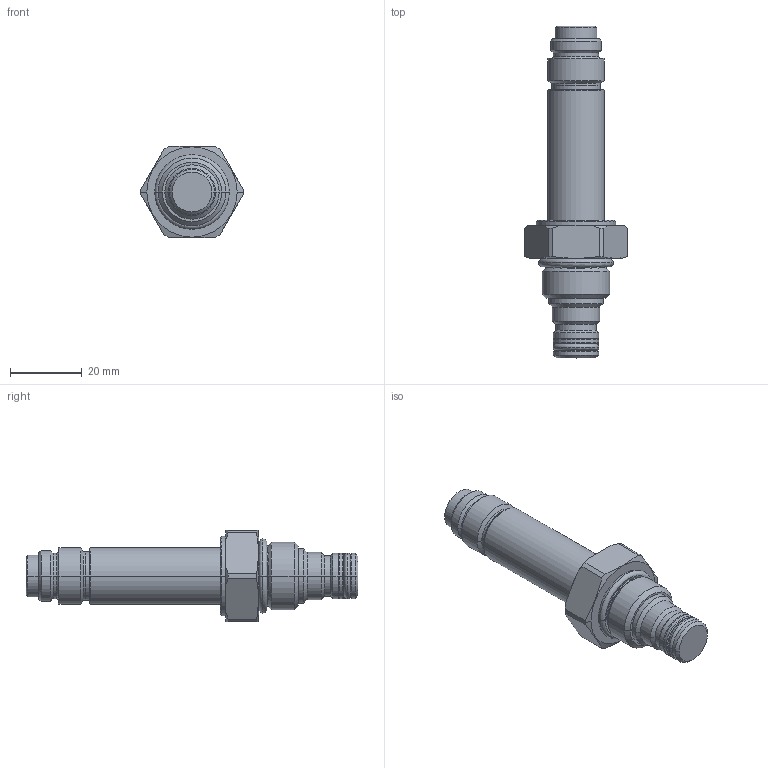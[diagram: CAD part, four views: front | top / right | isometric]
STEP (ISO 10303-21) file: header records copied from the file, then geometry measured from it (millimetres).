
FILE_DESCRIPTION((''),'2;1');
FILE_NAME('5122820_SW0001','2009-03-25T',('JCS'),(''),'PRO/ENGINEER BY PARAMETRIC TECHNOLOGY CORPORATION, 2008510','PRO/ENGINEER BY PARAMETRIC TECHNOLOGY CORPORATION, 2008510','');
FILE_SCHEMA(('CONFIG_CONTROL_DESIGN'));
Length unit declared in the file: inch
Products named in the file (1): 5122820_SW0001
Bounding box: 28.57 x 92.51 x 25.4 mm (x, y, z)
Volume: 20879.3 mm3; surface area: 6642.9 mm2
Topology: 2 solids, 2 shells, 137 faces, 290 edges, 164 vertices
Faces by surface type: cylinder 44, cone 42, torus 18, plane 17, revolution 16
Entity records: 4008 total; most frequent: CARTESIAN_POINT 981, DIRECTION 678, ORIENTED_EDGE 580, EDGE_CURVE 290, AXIS2_PLACEMENT_3D 285, VERTEX_POINT 164, CIRCLE 164, EDGE_LOOP 146
